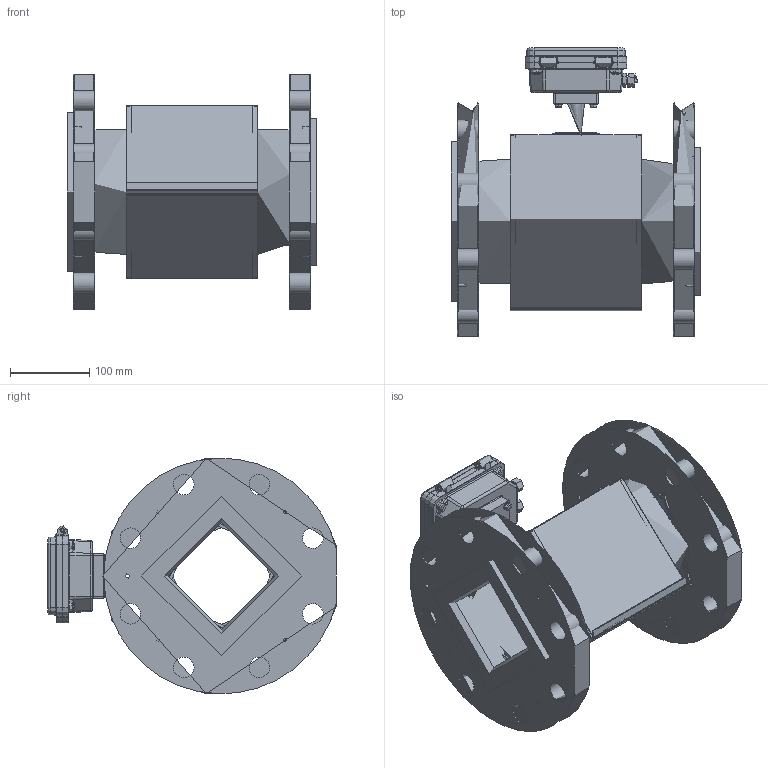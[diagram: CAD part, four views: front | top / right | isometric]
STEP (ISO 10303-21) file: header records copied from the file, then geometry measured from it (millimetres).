
FILE_DESCRIPTION(('STEP AP214'), '1');
FILE_NAME('Âçëåò ÝÐ ÏÐÎÔÈ DN150 Ôëàíåö', '', ('UNSPECIFIED'), ('UNSPECIFIED'), 'ASCON STEP Converter 1.6', 'ASCON Math Kernel', '');
FILE_SCHEMA(('AUTOMOTIVE_DESIGN { 1 0 10303 214 3 1 1}'));
Length unit declared in the file: millimetre
Products named in the file (1): 婽挭.407212.031-031.12
Bounding box: 316 x 364.79 x 297.86 mm (x, y, z)
Topology: 5 solids, 10 shells, 1103 faces, 2657 edges, 1610 vertices
Faces by surface type: plane 408, cylinder 367, cone 155, torus 125, bspline 48
Full cylindrical faces by diameter (mm): 0.8 x2, 2 x2, 3 x4, 3.242 x14, 3.3 x2, 3.7 x8, 4 x12, 4.134 x2, 5 x1, 5.5 x1, 6 x4, 6.3 x2, 7 x4, 7.5 x2, 8 x2, 10 x4, 10.106 x2, 12 x8, 12.5 x2, 16.5 x2, 18 x1, 19 x1, 20 x1, 21 x1, 25 x1, 26 x16, 30 x1, 135 x1, 158 x2, 159 x1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
Entity records: 59155 total; most frequent: CARTESIAN_POINT 20317, DIRECTION 5388, ORIENTED_EDGE 4760, EDGE_CURVE 2380, AXIS2_PLACEMENT_3D 2148, VERTEX_POINT 1574, EDGE_LOOP 1474, PROPERTY_DEFINITION 1134
